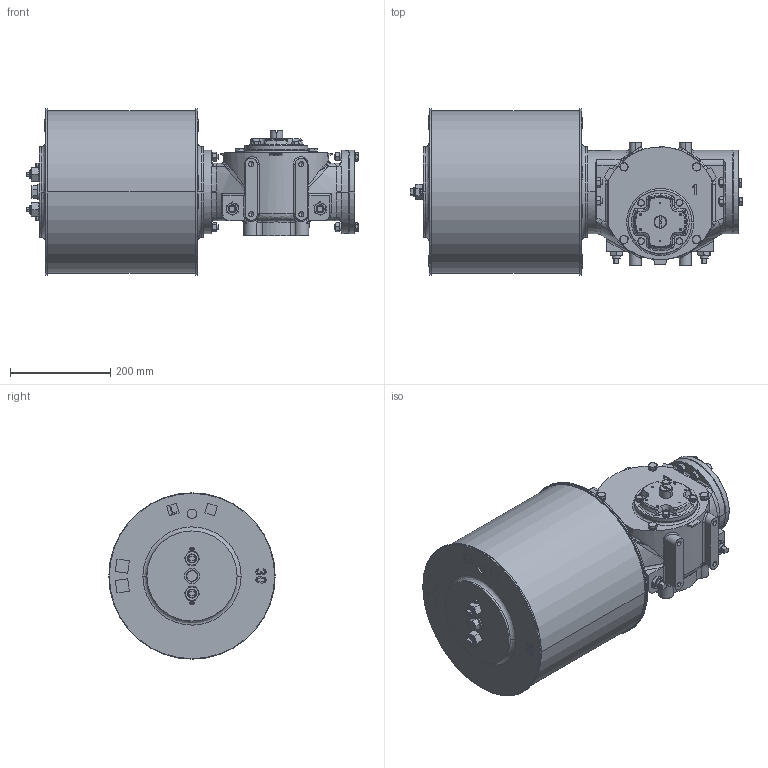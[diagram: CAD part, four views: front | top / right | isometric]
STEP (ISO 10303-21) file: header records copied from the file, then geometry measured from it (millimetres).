
FILE_DESCRIPTION (( 'STEP AP203' ), '1' );
FILE_NAME ('VTS1-300.STEP', '2023-01-01T07:36:11', ( '' ), ( '' ), 'SwSTEP 2.0', 'SolidWorks 2020', '' );
FILE_SCHEMA (( 'CONFIG_CONTROL_DESIGN' ));
Length unit declared in the file: millimetre
Products named in the file (1): VTS1-300
Bounding box: 662.58 x 332 x 332 mm (x, y, z)
Volume: 33926599 mm3; surface area: 953968.5 mm2
Topology: 3 solids, 9 shells, 1630 faces, 4288 edges, 2720 vertices
Faces by surface type: plane 601, cylinder 439, cone 307, bspline 225, torus 30, sphere 28
Entity records: 75789 total; most frequent: CARTESIAN_POINT 39145, ORIENTED_EDGE 8432, DIRECTION 6448, EDGE_CURVE 4216, VERTEX_POINT 2720, AXIS2_PLACEMENT_3D 2480, EDGE_LOOP 1788, ADVANCED_FACE 1630
